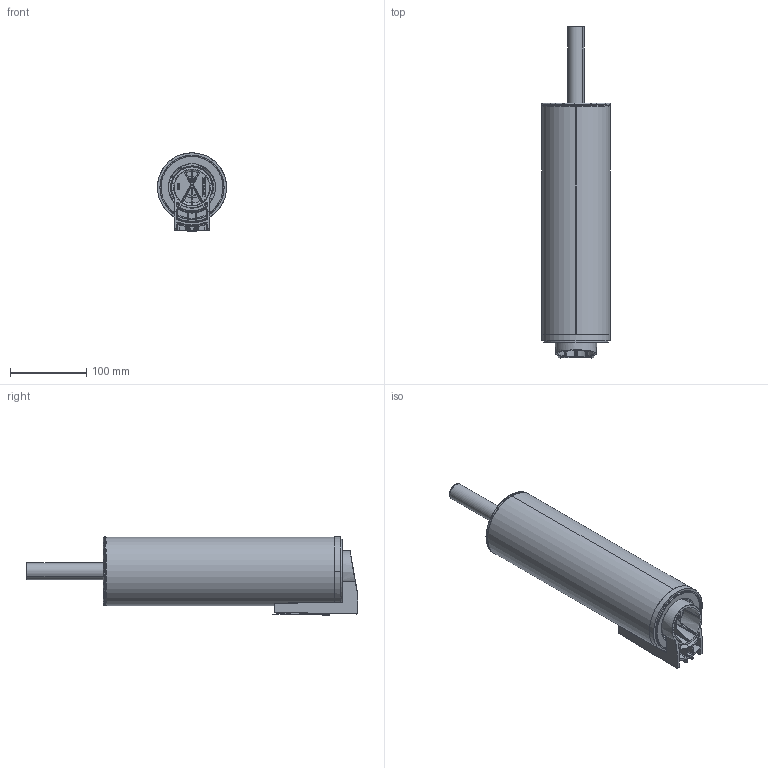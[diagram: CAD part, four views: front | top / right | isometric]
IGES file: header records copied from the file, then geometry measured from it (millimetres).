
Start section: SolidWorks IGES file using analytic representation for surfaces
Global section: file name: G:\Projects\New project\For Marketing\IGS\IGS\2015-10-22\2510100VW.IGS; native system: SolidWorks 2010; preprocessor: SolidWorks 2010; author: linda; date: 151013.102145; units: millimetre
Bounding box: 90.43 x 434.98 x 102.58 mm (x, y, z)
Surface area: 158955.4 mm2 (no closed solid volume)
Topology: 0 solids, 0 shells, 336 faces, 5575 edges, 5567 vertices
Faces by surface type: bspline 186, revolution 150
